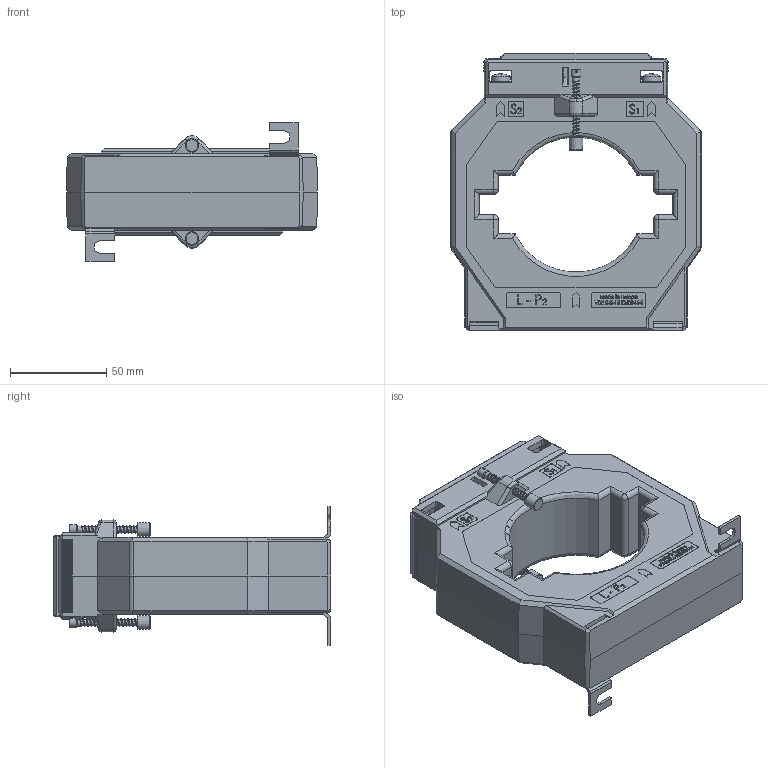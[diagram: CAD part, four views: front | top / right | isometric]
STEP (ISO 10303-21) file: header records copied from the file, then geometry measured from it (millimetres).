
FILE_DESCRIPTION(/* description */ (''),/* implementation_level */ '2;1');
FILE_NAME(/* name */ 'ASK101.4.stp',/* time_stamp */ '2024-03-04T14:00:50+01:00',/* author */ ('JDI'),/* organization */ (''),/* preprocessor_version */ 'ST-DEVELOPER v19.2',/* originating_system */ 'Autodesk Inventor 2023',/* authorisation */ '');
FILE_SCHEMA (('AUTOMOTIVE_DESIGN { 1 0 10303 214 3 1 1 }'));
Products named in the file (1): ASK101.4
Bounding box: 130 x 144 x 72 mm (x, y, z)
Volume: 485265.2 mm3; surface area: 74881.8 mm2
Topology: 1 solids, 1 shells, 1809 faces, 4841 edges, 3119 vertices
Faces by surface type: plane 1221, bspline 328, cylinder 222, cone 20, torus 10, sphere 8
Full cylindrical faces by diameter (mm): 2.95 x2, 3 x36, 3.4 x7, 3.8 x3, 4 x21, 4.1 x2, 4.4 x2, 5 x1, 10 x4
Entity records: 82059 total; most frequent: CARTESIAN_POINT 37473, ORIENTED_EDGE 9682, DIRECTION 7420, EDGE_CURVE 4841, LINE 3530, VECTOR 3530, VERTEX_POINT 3119, EDGE_LOOP 1970
